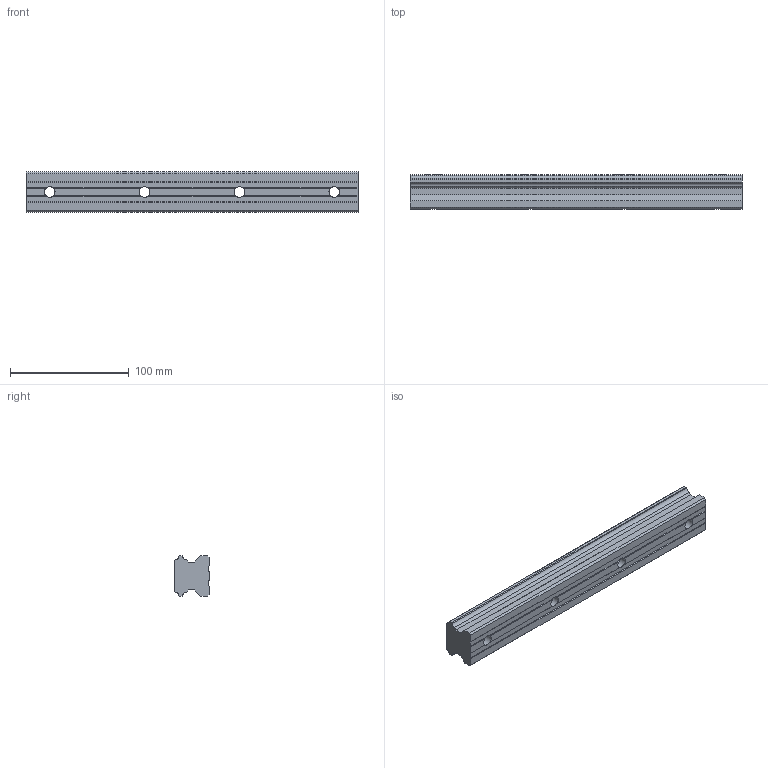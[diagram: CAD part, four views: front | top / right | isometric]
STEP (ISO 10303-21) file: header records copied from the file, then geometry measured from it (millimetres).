
FILE_DESCRIPTION(/* description */ ('STEP AP203'),/* implementation_level */ '2;1');
FILE_NAME(/* name */ 'HSR35-280L(GK) RAIL(20)',/* time_stamp */ '2024-05-21T04:44:49+02:00',/* author */ ('License CC BY-ND 4.0'),/* organization */ ('CADENAS'),/* preprocessor_version */ 'ST-DEVELOPER v19.3',/* originating_system */ 'PARTsolutions',/* authorisation */ ' ');
FILE_SCHEMA (('CONFIG_CONTROL_DESIGN'));
Length unit declared in the file: millimetre
Products named in the file (1): HSR35-280L(GK) RAIL(20)
Bounding box: 280 x 29 x 34 mm (x, y, z)
Volume: 224938.2 mm3; surface area: 41673.6 mm2
Topology: 1 solids, 1 shells, 58 faces, 168 edges, 112 vertices
Faces by surface type: plane 46, cylinder 12
Full cylindrical faces by diameter (mm): 9 x4, 14 x4
Entity records: 1894 total; most frequent: DIRECTION 326, CARTESIAN_POINT 323, ORIENTED_EDGE 312, EDGE_CURVE 156, AXIS2_PLACEMENT_3D 111, VERTEX_POINT 108, LINE 104, VECTOR 104
